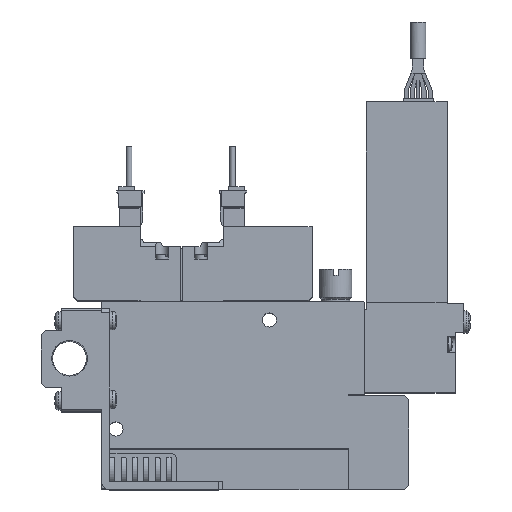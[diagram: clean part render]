
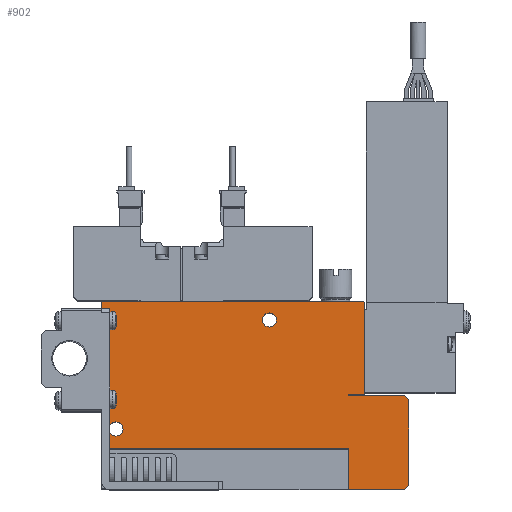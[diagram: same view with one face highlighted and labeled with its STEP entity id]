
A CAD part, top view. The second image highlights one B-rep face of the part: STEP entity #902.
In plain terms, the highlighted planar face has unit normal (0, 0, 1).
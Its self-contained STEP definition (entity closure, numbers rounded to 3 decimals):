
#902=ADVANCED_FACE('',(#2130,#2131,#2132),#2133,.F.);
#2130=FACE_OUTER_BOUND('',#3780,.T.);
#2131=FACE_BOUND('',#3781,.T.);
#2132=FACE_BOUND('',#3782,.T.);
#2133=PLANE('',#3783);
#3780=EDGE_LOOP('',(#8022,#8023,#8024,#8025,#8026,#8027,#8028,#8029,#8030,#8031,#8032,#8033,#8034,#8035));
#3781=EDGE_LOOP('',(#8036));
#3782=EDGE_LOOP('',(#8037));
#3783=AXIS2_PLACEMENT_3D('',#8038,#8039,#8040);
#8022=ORIENTED_EDGE('',*,*,#11511,.T.);
#8023=ORIENTED_EDGE('',*,*,#11436,.F.);
#8024=ORIENTED_EDGE('',*,*,#11266,.F.);
#8025=ORIENTED_EDGE('',*,*,#11521,.T.);
#8026=ORIENTED_EDGE('',*,*,#11469,.T.);
#8027=ORIENTED_EDGE('',*,*,#11534,.T.);
#8028=ORIENTED_EDGE('',*,*,#11371,.T.);
#8029=ORIENTED_EDGE('',*,*,#11396,.T.);
#8030=ORIENTED_EDGE('',*,*,#11495,.T.);
#8031=ORIENTED_EDGE('',*,*,#11535,.T.);
#8032=ORIENTED_EDGE('',*,*,#11392,.T.);
#8033=ORIENTED_EDGE('',*,*,#11458,.T.);
#8034=ORIENTED_EDGE('',*,*,#11528,.T.);
#8035=ORIENTED_EDGE('',*,*,#11536,.T.);
#8036=ORIENTED_EDGE('',*,*,#11500,.F.);
#8037=ORIENTED_EDGE('',*,*,#11322,.F.);
#8038=CARTESIAN_POINT('',(0.0,0.0,5.0));
#8039=DIRECTION('',(0.0,0.0,-1.0));
#8040=DIRECTION('',(0.0,-1.0,0.0));
#11266=EDGE_CURVE('',#13737,#13739,#13740,.T.);
#11322=EDGE_CURVE('',#13842,#13842,#13843,.T.);
#11371=EDGE_CURVE('',#13932,#13930,#13933,.T.);
#11392=EDGE_CURVE('',#13967,#13965,#13968,.T.);
#11396=EDGE_CURVE('',#13930,#13972,#13974,.T.);
#11436=EDGE_CURVE('',#13739,#14040,#14041,.T.);
#11458=EDGE_CURVE('',#13965,#14077,#14079,.T.);
#11469=EDGE_CURVE('',#14098,#14096,#14099,.T.);
#11495=EDGE_CURVE('',#13972,#14140,#14142,.T.);
#11500=EDGE_CURVE('',#14151,#14151,#14152,.T.);
#11511=EDGE_CURVE('',#14168,#14040,#14169,.T.);
#11521=EDGE_CURVE('',#13737,#14098,#14181,.T.);
#11528=EDGE_CURVE('',#14077,#14190,#14192,.T.);
#11534=EDGE_CURVE('',#14096,#13932,#14199,.T.);
#11535=EDGE_CURVE('',#14140,#13967,#14200,.T.);
#11536=EDGE_CURVE('',#14190,#14168,#14201,.T.);
#13737=VERTEX_POINT('',#17825);
#13739=VERTEX_POINT('',#17828);
#13740=LINE('',#17829,#17830);
#13842=VERTEX_POINT('',#17990);
#13843=CIRCLE('',#17991,1.75);
#13930=VERTEX_POINT('',#18157);
#13932=VERTEX_POINT('',#18160);
#13933=LINE('',#18161,#18162);
#13965=VERTEX_POINT('',#18228);
#13967=VERTEX_POINT('',#18231);
#13968=LINE('',#18232,#18233);
#13972=VERTEX_POINT('',#18239);
#13974=LINE('',#18242,#18243);
#14040=VERTEX_POINT('',#18361);
#14041=LINE('',#18362,#18363);
#14077=VERTEX_POINT('',#18413);
#14079=LINE('',#18416,#18417);
#14096=VERTEX_POINT('',#18443);
#14098=VERTEX_POINT('',#18446);
#14099=LINE('',#18447,#18448);
#14140=VERTEX_POINT('',#18509);
#14142=LINE('',#18512,#18513);
#14151=VERTEX_POINT('',#18524);
#14152=CIRCLE('',#18525,1.75);
#14168=VERTEX_POINT('',#18559);
#14169=LINE('',#18560,#18561);
#14181=LINE('',#18580,#18581);
#14190=VERTEX_POINT('',#18595);
#14192=LINE('',#18598,#18599);
#14199=LINE('',#18611,#18612);
#14200=LINE('',#18613,#18614);
#14201=LINE('',#18615,#18616);
#17825=CARTESIAN_POINT('',(61.1,0.0,5.0));
#17828=CARTESIAN_POINT('',(61.1,10.1,5.0));
#17829=CARTESIAN_POINT('',(61.1,0.0,5.0));
#17830=VECTOR('',#22097,1.0);
#17990=CARTESIAN_POINT('',(43.25,42.0,5.0));
#17991=AXIS2_PLACEMENT_3D('',#22179,#22180,#22181);
#18157=CARTESIAN_POINT('',(75.0,23.25,5.0));
#18160=CARTESIAN_POINT('',(76.0,22.25,5.0));
#18161=CARTESIAN_POINT('',(76.0,22.25,5.0));
#18162=VECTOR('',#22247,1.0);
#18228=CARTESIAN_POINT('',(65.0,46.4,5.0));
#18231=CARTESIAN_POINT('',(65.0,23.5,5.0));
#18232=CARTESIAN_POINT('',(65.0,23.5,5.0));
#18233=VECTOR('',#22268,1.0);
#18239=CARTESIAN_POINT('',(61.0,23.25,5.0));
#18242=CARTESIAN_POINT('',(75.0,23.25,5.0));
#18243=VECTOR('',#22272,1.0);
#18361=CARTESIAN_POINT('',(0.0,10.1,5.0));
#18362=CARTESIAN_POINT('',(61.1,10.1,5.0));
#18363=VECTOR('',#22320,1.0);
#18413=CARTESIAN_POINT('',(64.8,46.6,5.0));
#18416=CARTESIAN_POINT('',(65.0,46.4,5.0));
#18417=VECTOR('',#22354,1.0);
#18443=CARTESIAN_POINT('',(76.0,1.0,5.0));
#18446=CARTESIAN_POINT('',(75.0,0.0,5.0));
#18447=CARTESIAN_POINT('',(75.0,0.0,5.0));
#18448=VECTOR('',#22365,1.0);
#18509=CARTESIAN_POINT('',(61.0,23.5,5.0));
#18512=CARTESIAN_POINT('',(61.0,23.25,5.0));
#18513=VECTOR('',#22399,1.0);
#18524=CARTESIAN_POINT('',(5.25,15.0,5.0));
#18525=AXIS2_PLACEMENT_3D('',#22408,#22409,#22410);
#18559=CARTESIAN_POINT('',(0.0,46.4,5.0));
#18560=CARTESIAN_POINT('',(0.0,46.4,5.0));
#18561=VECTOR('',#22422,1.0);
#18580=CARTESIAN_POINT('',(0.0,0.0,5.0));
#18581=VECTOR('',#22436,1.0);
#18595=CARTESIAN_POINT('',(0.2,46.6,5.0));
#18598=CARTESIAN_POINT('',(64.8,46.6,5.0));
#18599=VECTOR('',#22443,1.0);
#18611=CARTESIAN_POINT('',(76.0,1.0,5.0));
#18612=VECTOR('',#22449,1.0);
#18613=CARTESIAN_POINT('',(61.0,23.5,5.0));
#18614=VECTOR('',#22450,1.0);
#18615=CARTESIAN_POINT('',(0.2,46.6,5.0));
#18616=VECTOR('',#22451,1.0);
#22097=DIRECTION('',(0.0,1.0,0.0));
#22179=CARTESIAN_POINT('',(41.5,42.0,5.0));
#22180=DIRECTION('',(0.0,0.0,1.0));
#22181=DIRECTION('',(1.0,0.0,0.0));
#22247=DIRECTION('',(-0.707,0.707,0.0));
#22268=DIRECTION('',(0.0,1.0,0.0));
#22272=DIRECTION('',(-1.0,0.0,0.0));
#22320=DIRECTION('',(-1.0,0.0,0.0));
#22354=DIRECTION('',(-0.707,0.707,0.0));
#22365=DIRECTION('',(0.707,0.707,0.0));
#22399=DIRECTION('',(0.0,1.0,0.0));
#22408=CARTESIAN_POINT('',(3.5,15.0,5.0));
#22409=DIRECTION('',(0.0,0.0,1.0));
#22410=DIRECTION('',(1.0,0.0,0.0));
#22422=DIRECTION('',(0.0,-1.0,0.0));
#22436=DIRECTION('',(1.0,0.0,0.0));
#22443=DIRECTION('',(-1.0,0.0,0.0));
#22449=DIRECTION('',(0.0,1.0,0.0));
#22450=DIRECTION('',(1.0,0.,0.0));
#22451=DIRECTION('',(-0.707,-0.707,0.0));
